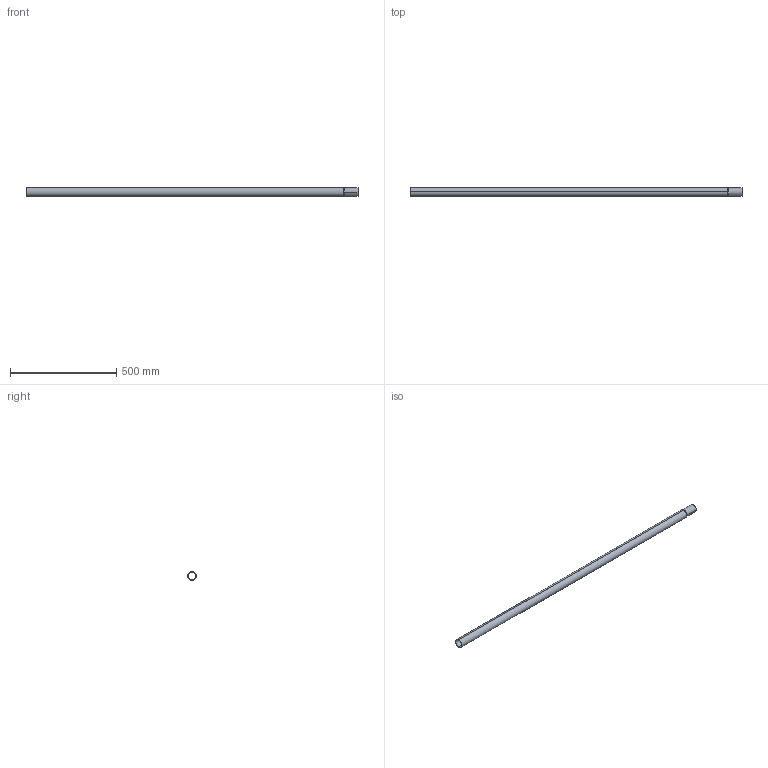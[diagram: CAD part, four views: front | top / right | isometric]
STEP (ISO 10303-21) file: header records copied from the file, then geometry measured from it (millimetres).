
FILE_DESCRIPTION (( 'STEP AP203' ), '1' );
FILE_NAME ('Rostfritt rör Ø42x1,5 L_1500.STEP', '2014-09-26T06:27:43', ( '' ), ( '' ), 'SwSTEP 2.0', 'SolidWorks 2014', '' );
FILE_SCHEMA (( 'CONFIG_CONTROL_DESIGN' ));
Length unit declared in the file: millimetre
Products named in the file (1): Rostfritt rör Ø42x1,5 L_1500
Bounding box: 1564 x 42 x 42 mm (x, y, z)
Volume: 297364.2 mm3; surface area: 396848.5 mm2
Topology: 1 solids, 1 shells, 14 faces, 32 edges, 20 vertices
Faces by surface type: cylinder 8, cone 4, plane 2
Entity records: 485 total; most frequent: DIRECTION 82, CARTESIAN_POINT 67, ORIENTED_EDGE 64, AXIS2_PLACEMENT_3D 35, EDGE_CURVE 32, VERTEX_POINT 20, CIRCLE 20, EDGE_LOOP 16
